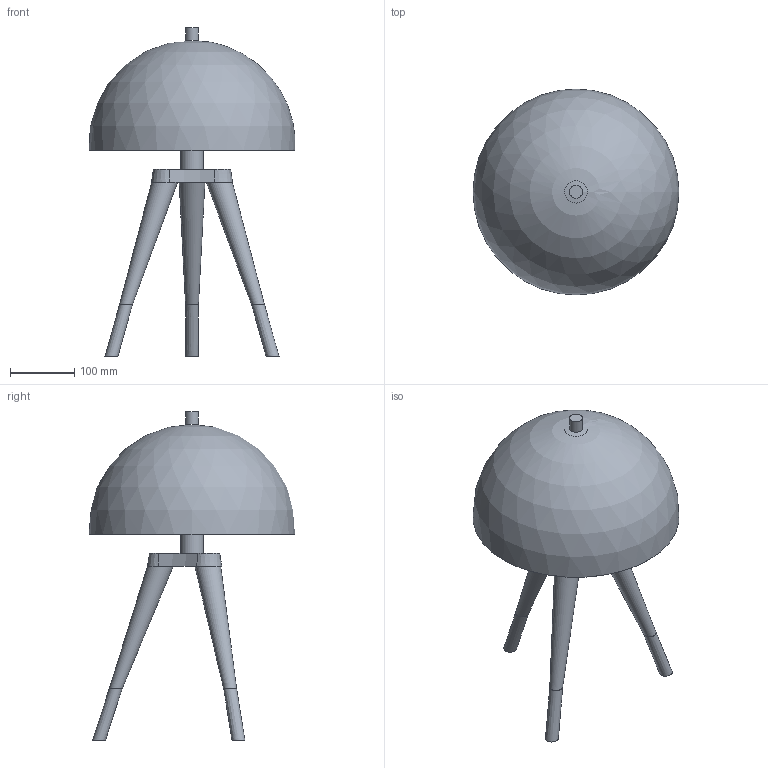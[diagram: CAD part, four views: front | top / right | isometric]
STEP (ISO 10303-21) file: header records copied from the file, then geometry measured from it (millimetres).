
FILE_DESCRIPTION( ( 'STEP AP203' ), '1' );
FILE_NAME( 'D:/Tecnico/Desktop/BF Disegni/LADY/LADY-L Lumetto.stp', '2020-09-11T15:28:07', ( ' ' ), ( ' ' ), 'XStep 1.0', ' ', ' ' );
FILE_SCHEMA( ( 'CONFIG_CONTROL_DESIGN) ( )' ) );
Length unit declared in the file: metre
Products named in the file (10): 1; 2; 3; 4; 5; 6; 7; 8; 9; 10
Bounding box: 319.37 x 319.37 x 510 mm (x, y, z)
Volume: 1115832.7 mm3; surface area: 468240.3 mm2
Topology: 10 solids, 10 shells, 35 faces, 49 edges, 33 vertices
Faces by surface type: plane 19, bspline 6, cone 6, sphere 2, cylinder 2
Full cylindrical faces by diameter (mm): 20 x1, 35 x1
Entity records: 2858 total; most frequent: CARTESIAN_POINT 1899, DIRECTION 120, ORIENTED_EDGE 72, AXIS2_PLACEMENT_3D 57, CC_DESIGN_PERSON_AND_ORGANIZATION_ASSIGNMENT 50, EDGE_LOOP 44, FACE_OUTER_BOUND 43, PERSON_AND_ORGANIZATION_ROLE 40
